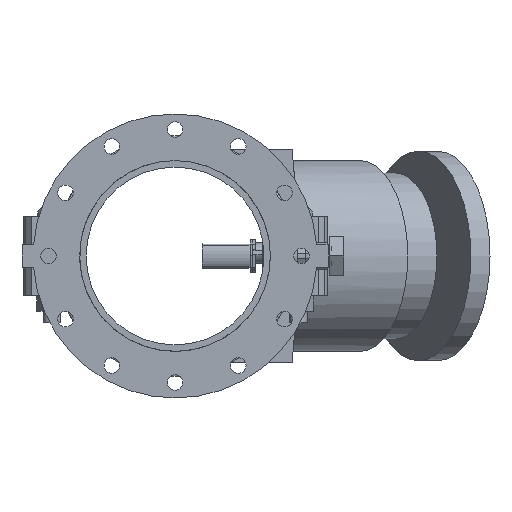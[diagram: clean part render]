
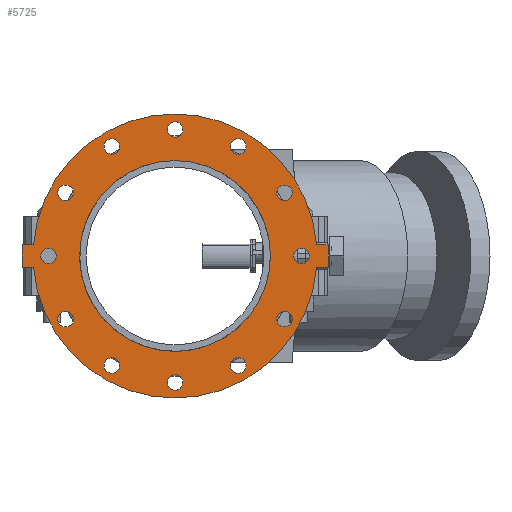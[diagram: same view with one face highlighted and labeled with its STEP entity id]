
A CAD part, front view. The second image highlights one B-rep face of the part: STEP entity #5725.
In plain terms, the highlighted planar face has unit normal (0, -1, 0) as drawn and (0, 0, 1) by its records, which use the part's own axes.
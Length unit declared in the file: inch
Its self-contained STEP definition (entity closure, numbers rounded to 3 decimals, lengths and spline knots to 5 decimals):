
#146=FACE_BOUND('',#765,.T.);
#147=FACE_BOUND('',#766,.T.);
#148=FACE_BOUND('',#767,.T.);
#149=FACE_BOUND('',#768,.T.);
#150=FACE_BOUND('',#769,.T.);
#151=FACE_BOUND('',#770,.T.);
#152=FACE_BOUND('',#771,.T.);
#153=FACE_BOUND('',#772,.T.);
#154=FACE_BOUND('',#773,.T.);
#155=FACE_BOUND('',#774,.T.);
#156=FACE_BOUND('',#775,.T.);
#157=FACE_BOUND('',#776,.T.);
#158=FACE_BOUND('',#777,.T.);
#225=PLANE('',#6258);
#433=FACE_OUTER_BOUND('',#764,.T.);
#764=EDGE_LOOP('',(#3776,#3777,#3778,#3779,#3780,#3781,#3782,#3783));
#765=EDGE_LOOP('',(#3784));
#766=EDGE_LOOP('',(#3785));
#767=EDGE_LOOP('',(#3786));
#768=EDGE_LOOP('',(#3787));
#769=EDGE_LOOP('',(#3788));
#770=EDGE_LOOP('',(#3789));
#771=EDGE_LOOP('',(#3790));
#772=EDGE_LOOP('',(#3791));
#773=EDGE_LOOP('',(#3792));
#774=EDGE_LOOP('',(#3793));
#775=EDGE_LOOP('',(#3794));
#776=EDGE_LOOP('',(#3795));
#777=EDGE_LOOP('',(#3796,#3797));
#1156=LINE('',#8764,#1586);
#1157=LINE('',#8767,#1587);
#1160=LINE('',#8772,#1590);
#1161=LINE('',#8775,#1591);
#1163=LINE('',#8778,#1593);
#1164=LINE('',#8780,#1594);
#1586=VECTOR('',#7000,0.3937);
#1587=VECTOR('',#7003,0.3937);
#1590=VECTOR('',#7008,0.3937);
#1591=VECTOR('',#7011,0.3937);
#1593=VECTOR('',#7015,0.3937);
#1594=VECTOR('',#7018,0.3937);
#1992=CIRCLE('',#6205,0.4375);
#1994=CIRCLE('',#6208,0.4375);
#1996=CIRCLE('',#6211,0.4375);
#1998=CIRCLE('',#6214,0.4375);
#2000=CIRCLE('',#6217,0.4375);
#2002=CIRCLE('',#6220,0.4375);
#2004=CIRCLE('',#6223,0.4375);
#2006=CIRCLE('',#6226,0.4375);
#2008=CIRCLE('',#6229,0.4375);
#2010=CIRCLE('',#6232,0.4375);
#2012=CIRCLE('',#6235,0.4375);
#2014=CIRCLE('',#6238,0.4375);
#2020=CIRCLE('',#6246,8.);
#2021=CIRCLE('',#6248,5.375);
#2022=CIRCLE('',#6249,5.375);
#2023=CIRCLE('',#6251,8.);
#2317=VERTEX_POINT('',#8651);
#2319=VERTEX_POINT('',#8657);
#2321=VERTEX_POINT('',#8663);
#2323=VERTEX_POINT('',#8669);
#2325=VERTEX_POINT('',#8675);
#2327=VERTEX_POINT('',#8681);
#2329=VERTEX_POINT('',#8687);
#2331=VERTEX_POINT('',#8693);
#2333=VERTEX_POINT('',#8699);
#2335=VERTEX_POINT('',#8705);
#2337=VERTEX_POINT('',#8711);
#2339=VERTEX_POINT('',#8717);
#2351=VERTEX_POINT('',#8744);
#2352=VERTEX_POINT('',#8746);
#2353=VERTEX_POINT('',#8750);
#2354=VERTEX_POINT('',#8752);
#2355=VERTEX_POINT('',#8756);
#2356=VERTEX_POINT('',#8758);
#2357=VERTEX_POINT('',#8762);
#2358=VERTEX_POINT('',#8766);
#2359=VERTEX_POINT('',#8770);
#2360=VERTEX_POINT('',#8774);
#2866=EDGE_CURVE('',#2317,#2317,#1992,.T.);
#2869=EDGE_CURVE('',#2319,#2319,#1994,.T.);
#2872=EDGE_CURVE('',#2321,#2321,#1996,.T.);
#2875=EDGE_CURVE('',#2323,#2323,#1998,.T.);
#2878=EDGE_CURVE('',#2325,#2325,#2000,.T.);
#2881=EDGE_CURVE('',#2327,#2327,#2002,.T.);
#2884=EDGE_CURVE('',#2329,#2329,#2004,.T.);
#2887=EDGE_CURVE('',#2331,#2331,#2006,.T.);
#2890=EDGE_CURVE('',#2333,#2333,#2008,.T.);
#2893=EDGE_CURVE('',#2335,#2335,#2010,.T.);
#2896=EDGE_CURVE('',#2337,#2337,#2012,.T.);
#2899=EDGE_CURVE('',#2339,#2339,#2014,.T.);
#2914=EDGE_CURVE('',#2351,#2352,#2020,.T.);
#2916=EDGE_CURVE('',#2354,#2353,#2021,.T.);
#2917=EDGE_CURVE('',#2353,#2354,#2022,.T.);
#2919=EDGE_CURVE('',#2356,#2355,#2023,.T.);
#2922=EDGE_CURVE('',#2352,#2357,#1156,.T.);
#2923=EDGE_CURVE('',#2358,#2356,#1157,.T.);
#2926=EDGE_CURVE('',#2355,#2359,#1160,.T.);
#2927=EDGE_CURVE('',#2360,#2351,#1161,.T.);
#2929=EDGE_CURVE('',#2359,#2360,#1163,.T.);
#2930=EDGE_CURVE('',#2357,#2358,#1164,.T.);
#3776=ORIENTED_EDGE('',*,*,#2926,.T.);
#3777=ORIENTED_EDGE('',*,*,#2929,.T.);
#3778=ORIENTED_EDGE('',*,*,#2927,.T.);
#3779=ORIENTED_EDGE('',*,*,#2914,.T.);
#3780=ORIENTED_EDGE('',*,*,#2922,.T.);
#3781=ORIENTED_EDGE('',*,*,#2930,.T.);
#3782=ORIENTED_EDGE('',*,*,#2923,.T.);
#3783=ORIENTED_EDGE('',*,*,#2919,.T.);
#3784=ORIENTED_EDGE('',*,*,#2866,.T.);
#3785=ORIENTED_EDGE('',*,*,#2869,.T.);
#3786=ORIENTED_EDGE('',*,*,#2872,.T.);
#3787=ORIENTED_EDGE('',*,*,#2875,.T.);
#3788=ORIENTED_EDGE('',*,*,#2878,.T.);
#3789=ORIENTED_EDGE('',*,*,#2881,.T.);
#3790=ORIENTED_EDGE('',*,*,#2884,.T.);
#3791=ORIENTED_EDGE('',*,*,#2887,.T.);
#3792=ORIENTED_EDGE('',*,*,#2890,.T.);
#3793=ORIENTED_EDGE('',*,*,#2893,.T.);
#3794=ORIENTED_EDGE('',*,*,#2896,.T.);
#3795=ORIENTED_EDGE('',*,*,#2899,.T.);
#3796=ORIENTED_EDGE('',*,*,#2916,.T.);
#3797=ORIENTED_EDGE('',*,*,#2917,.T.);
#5725=ADVANCED_FACE('',(#433,#146,#147,#148,#149,#150,#151,#152,#153,#154,
#155,#156,#157,#158),#225,.T.);
#6205=AXIS2_PLACEMENT_3D('',#8652,#6880,#6881);
#6208=AXIS2_PLACEMENT_3D('',#8658,#6887,#6888);
#6211=AXIS2_PLACEMENT_3D('',#8664,#6894,#6895);
#6214=AXIS2_PLACEMENT_3D('',#8670,#6901,#6902);
#6217=AXIS2_PLACEMENT_3D('',#8676,#6908,#6909);
#6220=AXIS2_PLACEMENT_3D('',#8682,#6915,#6916);
#6223=AXIS2_PLACEMENT_3D('',#8688,#6922,#6923);
#6226=AXIS2_PLACEMENT_3D('',#8694,#6929,#6930);
#6229=AXIS2_PLACEMENT_3D('',#8700,#6936,#6937);
#6232=AXIS2_PLACEMENT_3D('',#8706,#6943,#6944);
#6235=AXIS2_PLACEMENT_3D('',#8712,#6950,#6951);
#6238=AXIS2_PLACEMENT_3D('',#8718,#6957,#6958);
#6246=AXIS2_PLACEMENT_3D('',#8748,#6982,#6983);
#6248=AXIS2_PLACEMENT_3D('',#8753,#6987,#6988);
#6249=AXIS2_PLACEMENT_3D('',#8754,#6989,#6990);
#6251=AXIS2_PLACEMENT_3D('',#8759,#6994,#6995);
#6258=AXIS2_PLACEMENT_3D('',#8781,#7019,#7020);
#6880=DIRECTION('center_axis',(0.,0.,-1.));
#6881=DIRECTION('ref_axis',(-0.866,0.5,0.));
#6887=DIRECTION('center_axis',(0.,0.,-1.));
#6888=DIRECTION('ref_axis',(-0.5,0.866,0.));
#6894=DIRECTION('center_axis',(0.,0.,-1.));
#6895=DIRECTION('ref_axis',(0.,1.,0.));
#6901=DIRECTION('center_axis',(0.,0.,-1.));
#6902=DIRECTION('ref_axis',(0.5,0.866,0.));
#6908=DIRECTION('center_axis',(0.,0.,-1.));
#6909=DIRECTION('ref_axis',(0.866,0.5,0.));
#6915=DIRECTION('center_axis',(0.,0.,-1.));
#6916=DIRECTION('ref_axis',(1.,0.,0.));
#6922=DIRECTION('center_axis',(0.,0.,-1.));
#6923=DIRECTION('ref_axis',(0.866,-0.5,0.));
#6929=DIRECTION('center_axis',(0.,0.,-1.));
#6930=DIRECTION('ref_axis',(0.5,-0.866,0.));
#6936=DIRECTION('center_axis',(0.,0.,-1.));
#6937=DIRECTION('ref_axis',(0.,-1.,0.));
#6943=DIRECTION('center_axis',(0.,0.,-1.));
#6944=DIRECTION('ref_axis',(-0.5,-0.866,0.));
#6950=DIRECTION('center_axis',(0.,0.,-1.));
#6951=DIRECTION('ref_axis',(-0.866,-0.5,0.));
#6957=DIRECTION('center_axis',(0.,0.,-1.));
#6958=DIRECTION('ref_axis',(-1.,0.,0.));
#6982=DIRECTION('center_axis',(0.,0.,1.));
#6983=DIRECTION('ref_axis',(-1.,0.,0.));
#6987=DIRECTION('center_axis',(0.,0.,-1.));
#6988=DIRECTION('ref_axis',(-1.,0.,0.));
#6989=DIRECTION('center_axis',(0.,0.,-1.));
#6990=DIRECTION('ref_axis',(-1.,0.,0.));
#6994=DIRECTION('center_axis',(0.,0.,1.));
#6995=DIRECTION('ref_axis',(-1.,0.,0.));
#7000=DIRECTION('',(0.,1.,0.));
#7003=DIRECTION('',(0.,-1.,0.));
#7008=DIRECTION('',(0.,-1.,0.));
#7011=DIRECTION('',(0.,1.,0.));
#7015=DIRECTION('',(1.,0.,0.));
#7018=DIRECTION('',(-1.,0.,0.));
#7019=DIRECTION('center_axis',(0.,0.,1.));
#7020=DIRECTION('ref_axis',(1.,0.,0.));
#8651=CARTESIAN_POINT('',(-5.79154,3.34375,0.625));
#8652=CARTESIAN_POINT('Origin',(-6.17043,3.5625,0.625));
#8657=CARTESIAN_POINT('',(-3.34375,5.79154,0.625));
#8658=CARTESIAN_POINT('Origin',(-3.5625,6.17043,0.625));
#8663=CARTESIAN_POINT('',(0.,6.6875,0.625));
#8664=CARTESIAN_POINT('Origin',(0.,7.125,0.625));
#8669=CARTESIAN_POINT('',(3.34375,5.79154,0.625));
#8670=CARTESIAN_POINT('Origin',(3.5625,6.17043,0.625));
#8675=CARTESIAN_POINT('',(5.79154,3.34375,0.625));
#8676=CARTESIAN_POINT('Origin',(6.17043,3.5625,0.625));
#8681=CARTESIAN_POINT('',(6.6875,0.,0.625));
#8682=CARTESIAN_POINT('Origin',(7.125,0.,0.625));
#8687=CARTESIAN_POINT('',(5.79154,-3.34375,0.625));
#8688=CARTESIAN_POINT('Origin',(6.17043,-3.5625,0.625));
#8693=CARTESIAN_POINT('',(3.34375,-5.79154,0.625));
#8694=CARTESIAN_POINT('Origin',(3.5625,-6.17043,0.625));
#8699=CARTESIAN_POINT('',(0.,-6.6875,0.625));
#8700=CARTESIAN_POINT('Origin',(0.,-7.125,0.625));
#8705=CARTESIAN_POINT('',(-3.34375,-5.79154,0.625));
#8706=CARTESIAN_POINT('Origin',(-3.5625,-6.17043,0.625));
#8711=CARTESIAN_POINT('',(-5.79154,-3.34375,0.625));
#8712=CARTESIAN_POINT('Origin',(-6.17043,-3.5625,0.625));
#8717=CARTESIAN_POINT('',(-6.6875,0.,0.625));
#8718=CARTESIAN_POINT('Origin',(-7.125,0.,0.625));
#8744=CARTESIAN_POINT('',(0.625,-7.97555,0.625));
#8746=CARTESIAN_POINT('',(0.625,7.97555,0.625));
#8748=CARTESIAN_POINT('Origin',(0.,0.,0.625));
#8750=CARTESIAN_POINT('',(5.375,0.,0.625));
#8752=CARTESIAN_POINT('',(0.625,5.33854,0.625));
#8753=CARTESIAN_POINT('Origin',(0.,0.,0.625));
#8754=CARTESIAN_POINT('Origin',(0.,0.,0.625));
#8756=CARTESIAN_POINT('',(-0.625,-7.97555,0.625));
#8758=CARTESIAN_POINT('',(-0.625,7.97555,0.625));
#8759=CARTESIAN_POINT('Origin',(0.,0.,0.625));
#8762=CARTESIAN_POINT('',(0.625,8.625,0.625));
#8764=CARTESIAN_POINT('',(0.625,8.625,0.625));
#8766=CARTESIAN_POINT('',(-0.625,8.625,0.625));
#8767=CARTESIAN_POINT('',(-0.625,-8.625,0.625));
#8770=CARTESIAN_POINT('',(-0.625,-8.625,0.625));
#8772=CARTESIAN_POINT('',(-0.625,-8.625,0.625));
#8774=CARTESIAN_POINT('',(0.625,-8.625,0.625));
#8775=CARTESIAN_POINT('',(0.625,8.625,0.625));
#8778=CARTESIAN_POINT('',(0.625,-8.625,0.625));
#8780=CARTESIAN_POINT('',(-0.625,8.625,0.625));
#8781=CARTESIAN_POINT('Origin',(0.,0.,0.625));
